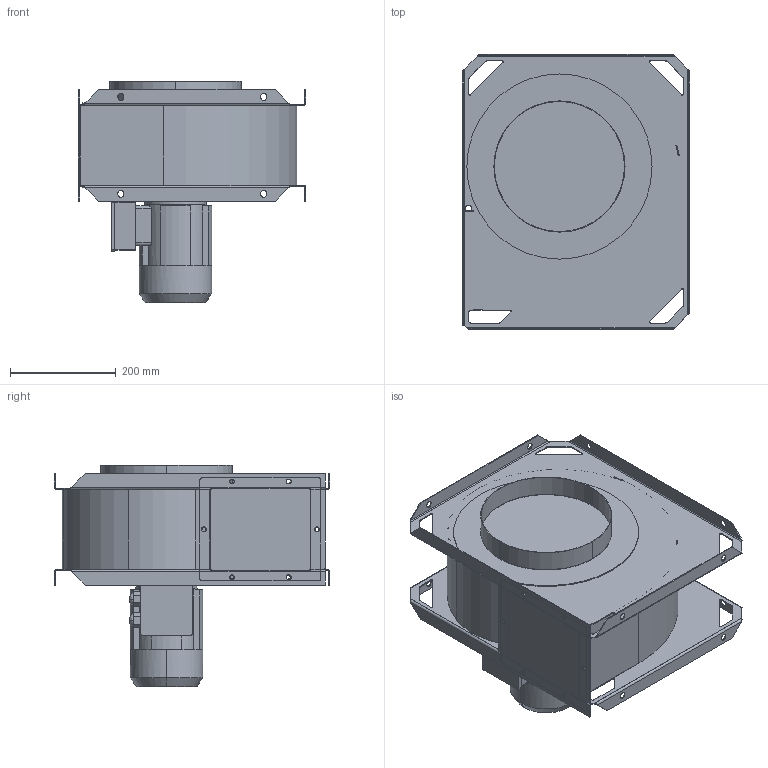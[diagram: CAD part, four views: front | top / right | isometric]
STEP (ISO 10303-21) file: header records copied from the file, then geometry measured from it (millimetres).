
FILE_DESCRIPTION((''),'2;1');
FILE_NAME('FBE_037-3_LG90','2022-10-13T14:01:42',('Tomas Bellgran'),(''),'CREO PARAMETRIC BY PTC INC, 2018260','CREO PARAMETRIC BY PTC INC, 2018260','');
FILE_SCHEMA(('AUTOMOTIVE_DESIGN { 1 0 10303 214 1 1 1 1 }'));
Length unit declared in the file: millimetre
Products named in the file (12): 117832; 116010; 116011; 117833; 116591; 117835; 116832; 117836; 4A-71-B5_L; 120061; 117882; FBE_037-3_LG90
Assembly tree (11 placements, depth 3):
  FBE_037-3_LG90
    117833
      117832
      116010
      116011
    116591
    117836
      117835
      116832
    120061
      4A-71-B5_L
    117882
Bounding box: 430.8 x 520 x 417.75 mm (x, y, z)
Volume: 5036172.6 mm3; surface area: 1902097.9 mm2
Topology: 9 solids, 9 shells, 504 faces, 1286 edges, 812 vertices
Faces by surface type: plane 298, cylinder 174, bspline 22, cone 10
Entity records: 26154 total; most frequent: CARTESIAN_POINT 3909, DIRECTION 2610, ORIENTED_EDGE 2572, PRESENTATION_STYLE_ASSIGNMENT 1799, STYLED_ITEM 1799, CURVE_STYLE 1286, EDGE_CURVE 1286, VECTOR 872
